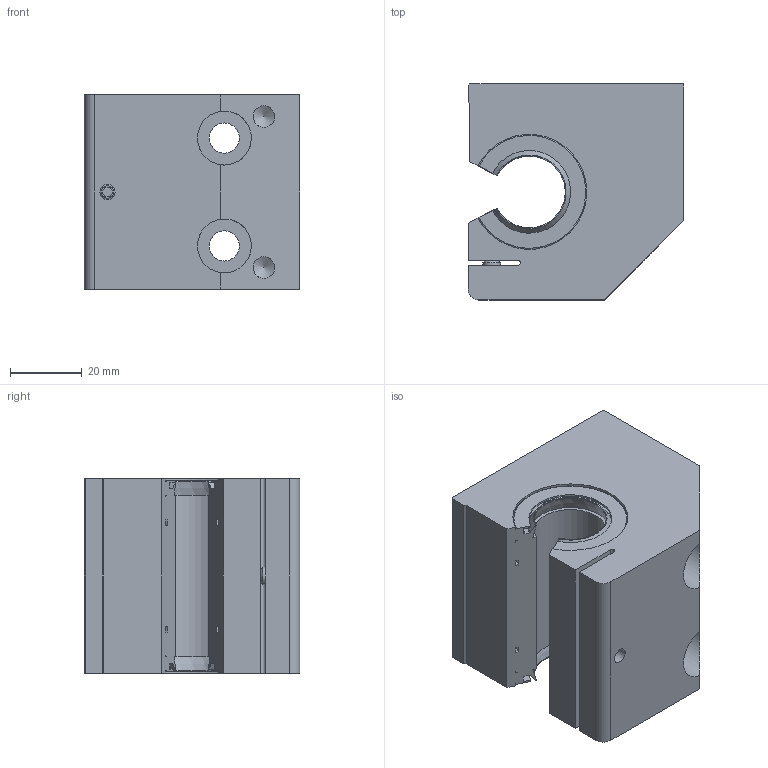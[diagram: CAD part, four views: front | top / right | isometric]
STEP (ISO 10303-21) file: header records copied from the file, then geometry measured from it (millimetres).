
FILE_DESCRIPTION(('STEP AP203'),'1');
FILE_NAME('//192.168.1.1/share/s-4 技術開発/s-4-4_CAD/s-4-4-3_見直し済み/008 修正済み/SLS-OPY/SLS-OPY_TOP/SLS-20-OPY.step','2022-03-10T07:32:51',(' '),(' '),'Spatial InterOp 3D',' ',' ');
FILE_SCHEMA(('CONFIG_CONTROL_DESIGN'));
Length unit declared in the file: millimetre
Products named in the file (1): 1
Bounding box: 60 x 60 x 54 mm (x, y, z)
Volume: 144651.4 mm3; surface area: 28681.4 mm2
Topology: 1 solids, 2 shells, 91 faces, 254 edges, 169 vertices
Faces by surface type: plane 43, cylinder 31, cone 9, torus 8
Full cylindrical faces by diameter (mm): 3 x1, 4.2 x1, 5 x1, 6 x2, 7 x2, 8.4 x4, 15 x2
Entity records: 2915 total; most frequent: CARTESIAN_POINT 623, DIRECTION 457, ORIENTED_EDGE 448, EDGE_CURVE 224, AXIS2_PLACEMENT_3D 166, VERTEX_POINT 160, EDGE_LOOP 125, LINE 125
